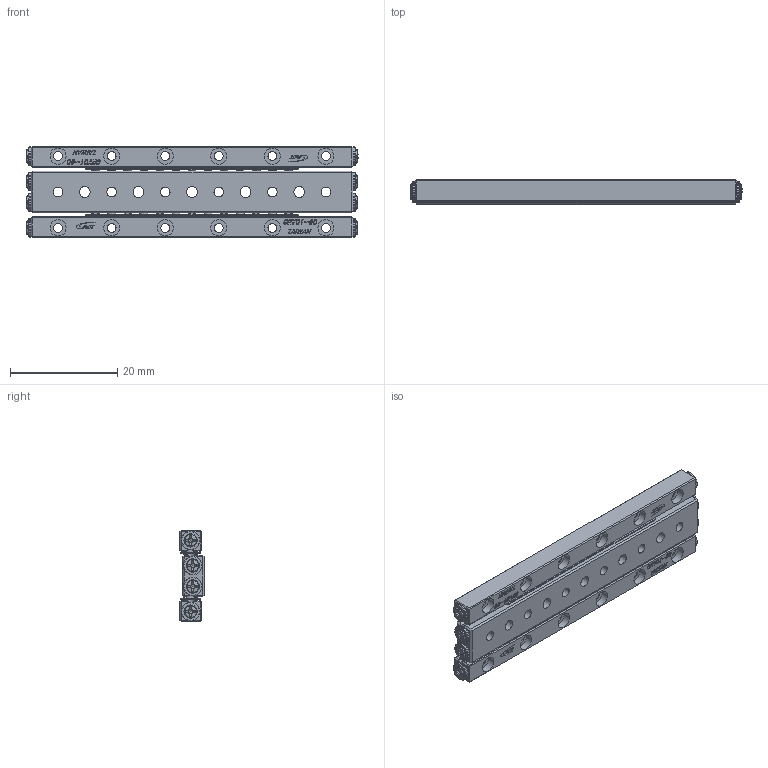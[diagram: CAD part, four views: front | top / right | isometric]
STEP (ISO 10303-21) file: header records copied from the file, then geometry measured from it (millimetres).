
FILE_DESCRIPTION (( 'STEP AP203' ), '1' );
FILE_NAME ('GRD01-60.STEP', '2023-08-09T05:10:24', ( '' ), ( '' ), 'SwSTEP 2.0', 'SolidWorks 2019', '' );
FILE_SCHEMA (( 'CONFIG_CONTROL_DESIGN' ));
Length unit declared in the file: millimetre
Products named in the file (4): GRV01-60-模糊化保持器組; GRD01-60-模糊化中軌; GRD01-60; GRV01-60-模糊化軌道
Assembly tree (5 placements, depth 2):
  GRD01-60
    GRD01-60-模糊化中軌
    GRV01-60-模糊化軌道  x2
    GRV01-60-模糊化保持器組  x2
Bounding box: 61.96 x 4.5 x 17 mm (x, y, z)
Volume: 3342 mm3; surface area: 5078.8 mm2
Topology: 5 solids, 13 shells, 2250 faces, 5910 edges, 3872 vertices
Faces by surface type: plane 1505, bspline 304, cylinder 277, cone 80, torus 76, sphere 8
Full cylindrical faces by diameter (mm): 1.32 x8, 1.65 x12, 1.8 x6, 2 x5, 2.5 x8, 3 x18, 3.5 x8
Entity records: 45904 total; most frequent: CARTESIAN_POINT 14675, ORIENTED_EDGE 6764, DIRECTION 5500, EDGE_CURVE 3382, VERTEX_POINT 2242, VECTOR 2200, LINE 2200, AXIS2_PLACEMENT_3D 1650
